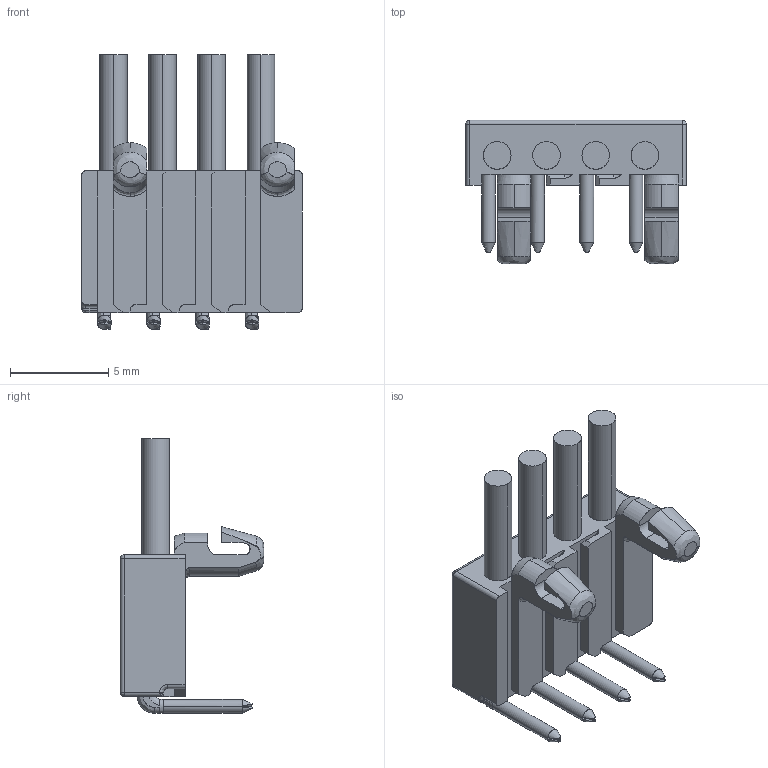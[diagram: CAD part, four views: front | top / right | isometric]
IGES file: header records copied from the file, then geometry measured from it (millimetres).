
Start section: SolidWorks IGES file using analytic representation for surfaces
Global section: file name: C:\Users\sz3dcad-9\Desktop\180321_YAZAKI様送付データ(IARPB)\IGES\IARPB 4P ASS'Y.IGS; native system: SolidWorks 2017; preprocessor: SolidWorks 2017; author: SZ3DCAD-9; date: 180810.151050; units: millimetre
Bounding box: 11.2 x 7.3 x 13.95 mm (x, y, z)
Surface area: 557.6 mm2 (no closed solid volume)
Topology: 0 solids, 0 shells, 389 faces, 3022 edges, 3013 vertices
Faces by surface type: bspline 282, revolution 107
